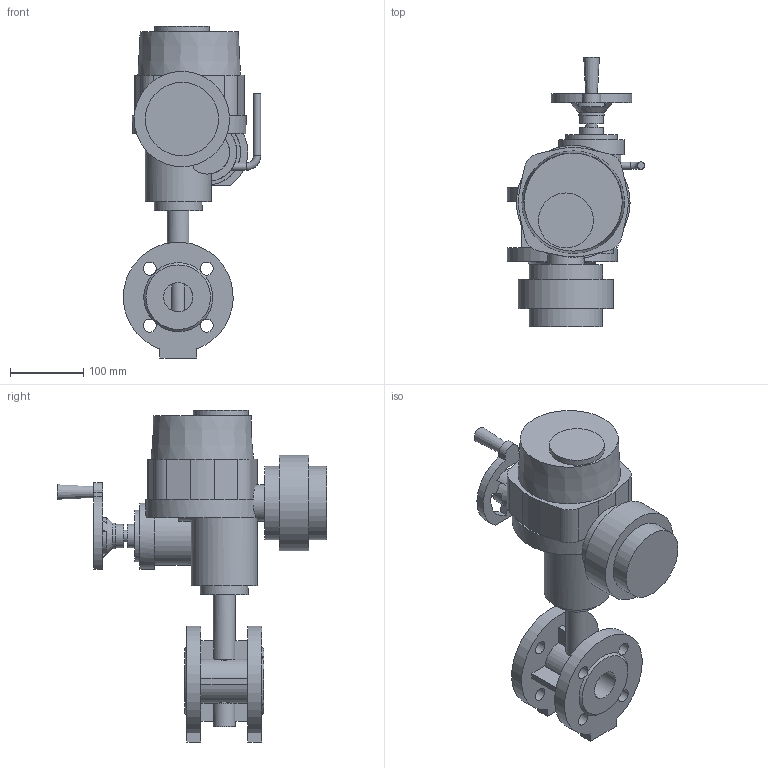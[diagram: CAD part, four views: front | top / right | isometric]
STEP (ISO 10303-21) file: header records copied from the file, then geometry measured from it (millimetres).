
FILE_DESCRIPTION(('STEP AP203'), '1');
FILE_NAME('青蜮铕 021F.Y DN40+菹 QT.A005', '', ('UNSPECIFIED'), ('UNSPECIFIED'), 'ASCON STEP Converter 1.6', 'ASCON Math Kernel', '');
FILE_SCHEMA(('CONFIG_CONTROL_DESIGN'));
Length unit declared in the file: millimetre
Bounding box: 187.43 x 368 x 453 mm (x, y, z)
Volume: 5485448.5 mm3; surface area: 385332.7 mm2
Topology: 1 solids, 1 shells, 184 faces, 483 edges, 310 vertices
Faces by surface type: plane 108, cylinder 70, cone 5, torus 1
Full cylindrical faces by diameter (mm): 6.7 x8, 8 x4, 10 x2, 16 x1, 18 x8, 30 x2, 32 x2, 35 x1, 40 x2, 50 x1, 60 x1, 65 x1, 70 x1, 75 x1, 90 x2, 100 x2, 130 x1
Entity records: 8782 total; most frequent: CARTESIAN_POINT 2774, DIRECTION 967, ORIENTED_EDGE 856, EDGE_CURVE 428, AXIS2_PLACEMENT_3D 386, VERTEX_POINT 306, EDGE_LOOP 282, FACE_BOUND 215
